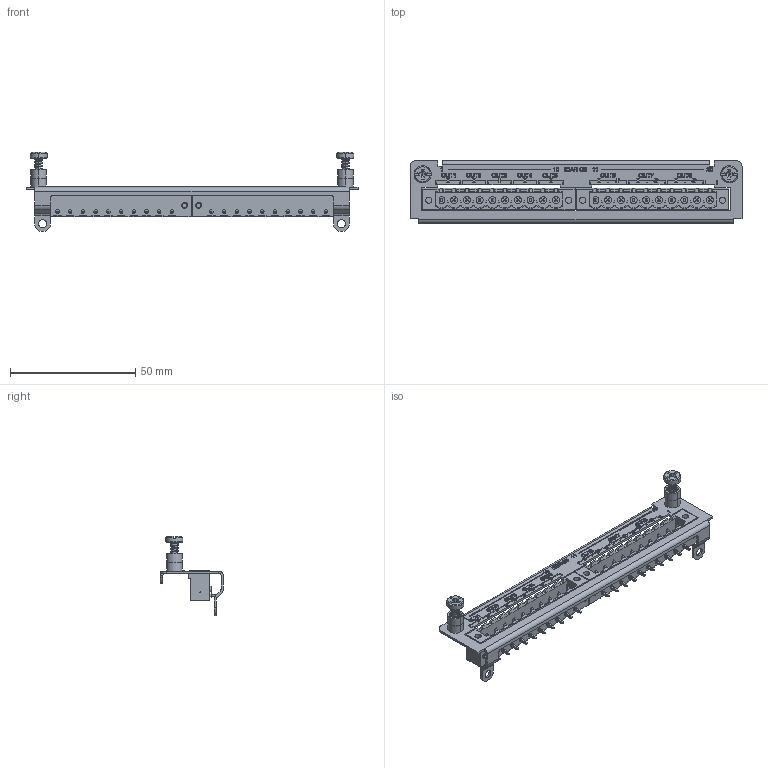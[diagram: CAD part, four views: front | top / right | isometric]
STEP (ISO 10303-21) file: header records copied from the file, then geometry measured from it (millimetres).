
FILE_DESCRIPTION(/* description */ (''),/* implementation_level */ '2;1');
FILE_NAME(/* name */ 'C:\Users\jondi\Desktop\FLEX 3D STP\C5-FLEX.stp',/* time_stamp */ '2021-03-10T15:51:27-06:00',/* author */ ('jondi'),/* organization */ (''),/* preprocessor_version */ 'ST-DEVELOPER v17.2',/* originating_system */ 'Autodesk Inventor 2019',/* authorisation */ '');
FILE_SCHEMA (('AUTOMOTIVE_DESIGN { 1 0 10303 214 3 1 1 }'));
Products named in the file (7): C5; 9579230113; 9579200027; 9579200027_1; 44090; 9579200068; 44082
Assembly tree (8 placements, depth 4):
  C5
    9579230113
      9579200027
        9579200027_1
      44090  x2
    9579200068
    44082  x2
Bounding box: 132.59 x 25.02 x 31.72 mm (x, y, z)
Volume: 9746.3 mm3; surface area: 16212.5 mm2
Topology: 75 solids, 75 shells, 2731 faces, 6351 edges, 3932 vertices
Faces by surface type: plane 2220, bspline 237, cylinder 176, cone 74, sphere 20, torus 4
Full cylindrical faces by diameter (mm): 0.434 x2, 1.4 x20, 1.8 x4, 2.4 x4, 2.5 x4, 2.8 x18, 3.251 x2, 4.826 x2
Entity records: 56567 total; most frequent: CARTESIAN_POINT 14724, ORIENTED_EDGE 8680, DIRECTION 7511, EDGE_CURVE 4340, LINE 3351, VECTOR 3351, VERTEX_POINT 2745, AXIS2_PLACEMENT_3D 2080
